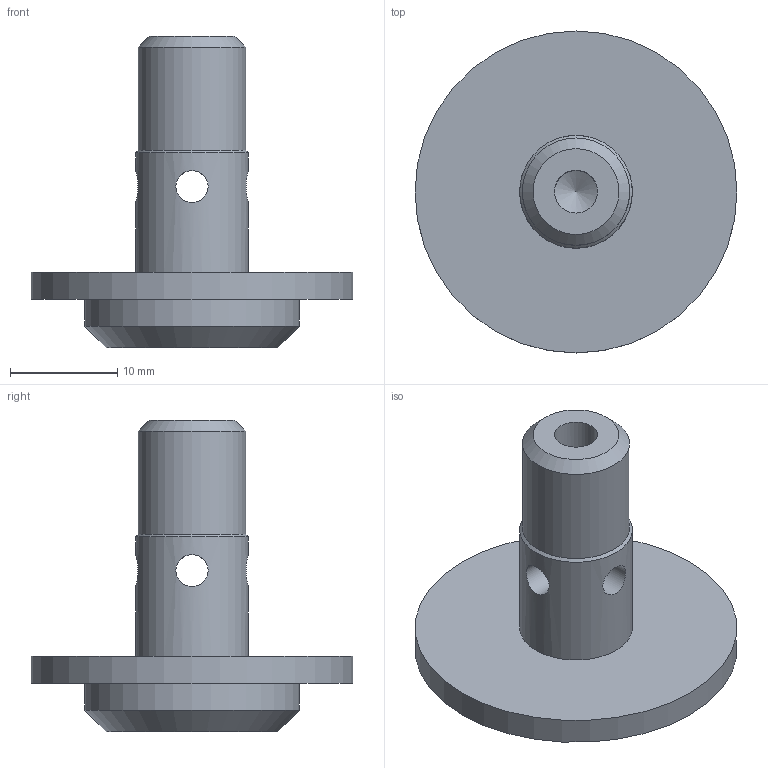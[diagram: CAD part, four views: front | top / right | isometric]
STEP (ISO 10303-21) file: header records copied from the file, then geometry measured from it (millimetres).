
FILE_DESCRIPTION(('STEP AP203'),'1');
FILE_NAME(').stp','2020-10-12T00:39:08',(' '),(' '),'Spatial InterOp 3D',' ',' ');
FILE_SCHEMA(('CONFIG_CONTROL_DESIGN'));
Length unit declared in the file: millimetre
Products named in the file (1): 1
Bounding box: 30 x 30 x 29 mm (x, y, z)
Volume: 4257.4 mm3; surface area: 2951.5 mm2
Topology: 1 solids, 1 shells, 34 faces, 87 edges, 52 vertices
Faces by surface type: plane 16, cylinder 13, cone 5
Full cylindrical faces by diameter (mm): 3 x4, 4 x1, 10 x1, 10.5 x1, 20 x1, 30 x1
Entity records: 1270 total; most frequent: CARTESIAN_POINT 507, DIRECTION 144, ORIENTED_EDGE 130, EDGE_CURVE 65, AXIS2_PLACEMENT_3D 60, EDGE_LOOP 54, VERTEX_POINT 47, FACE_OUTER_BOUND 43
